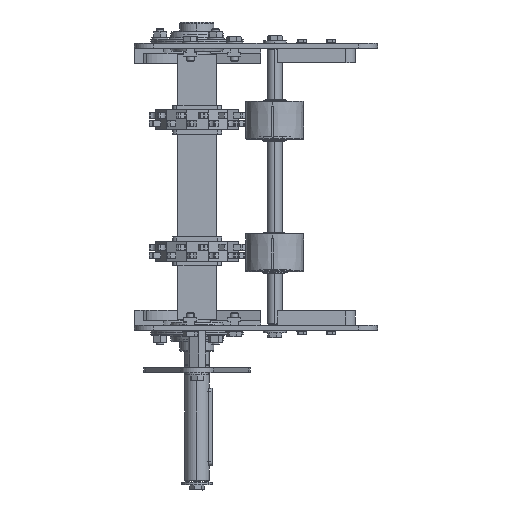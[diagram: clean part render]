
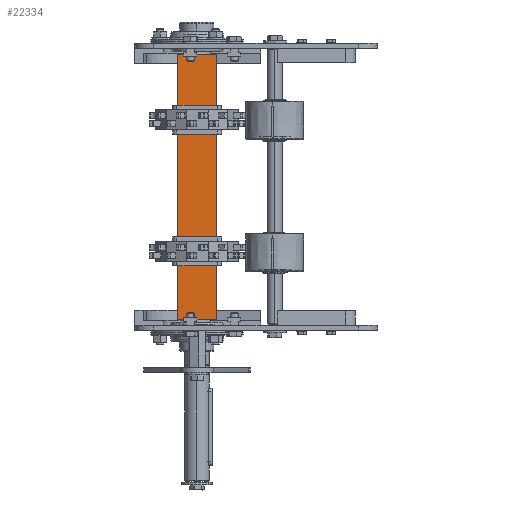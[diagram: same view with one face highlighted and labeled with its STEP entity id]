
A CAD part, left-side view. The second image highlights one B-rep face of the part: STEP entity #22334.
In plain terms, the highlighted planar face has unit normal (-1, 0, 0) as drawn and (1, 0, 0) by its records, which use the part's own axes.
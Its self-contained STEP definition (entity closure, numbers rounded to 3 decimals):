
#371 = CARTESIAN_POINT ( 'NONE',  ( 20., -20., 136.5 ) ) ;
#1951 = VECTOR ( 'NONE', #32514, 1000. ) ;
#2735 = AXIS2_PLACEMENT_3D ( 'NONE', #30798, #13813, #33664 ) ;
#4832 = LINE ( 'NONE', #32830, #19006 ) ;
#4997 = CARTESIAN_POINT ( 'NONE',  ( 20., -20., 136.5 ) ) ;
#5389 = LINE ( 'NONE', #371, #12885 ) ;
#7788 = VERTEX_POINT ( 'NONE', #33047 ) ;
#8144 = PLANE ( 'NONE',  #2735 ) ;
#8829 = ORIENTED_EDGE ( 'NONE', *, *, #13706, .T. ) ;
#9152 = VERTEX_POINT ( 'NONE', #31820 ) ;
#12041 = EDGE_CURVE ( 'NONE', #29884, #18481, #30302, .T. ) ;
#12522 = ORIENTED_EDGE ( 'NONE', *, *, #28702, .F. ) ;
#12885 = VECTOR ( 'NONE', #17337, 1000. ) ;
#12991 = DIRECTION ( 'NONE',  ( 0., 0., -1. ) ) ;
#13706 = EDGE_CURVE ( 'NONE', #7788, #9152, #31979, .T. ) ;
#13813 = DIRECTION ( 'NONE',  ( -1., 0., 0. ) ) ;
#15503 = CARTESIAN_POINT ( 'NONE',  ( 20., 20., 136.5 ) ) ;
#16286 = ORIENTED_EDGE ( 'NONE', *, *, #12041, .F. ) ;
#17337 = DIRECTION ( 'NONE',  ( 0., 0., -1. ) ) ;
#18481 = VERTEX_POINT ( 'NONE', #36484 ) ;
#19006 = VECTOR ( 'NONE', #12991, 1000. ) ;
#22334 = ADVANCED_FACE ( 'NONE', ( #28327 ), #8144, .F. ) ;
#22581 = EDGE_LOOP ( 'NONE', ( #8829, #12522, #16286, #29163 ) ) ;
#25597 = CARTESIAN_POINT ( 'NONE',  ( 20., 20., -136.5 ) ) ;
#28327 = FACE_OUTER_BOUND ( 'NONE', #22581, .T. ) ;
#28702 = EDGE_CURVE ( 'NONE', #18481, #9152, #4832, .T. ) ;
#29163 = ORIENTED_EDGE ( 'NONE', *, *, #33592, .T. ) ;
#29884 = VERTEX_POINT ( 'NONE', #4997 ) ;
#30199 = VECTOR ( 'NONE', #34157, 1000. ) ;
#30302 = LINE ( 'NONE', #15503, #1951 ) ;
#30798 = CARTESIAN_POINT ( 'NONE',  ( 20., 20., 136.5 ) ) ;
#31820 = CARTESIAN_POINT ( 'NONE',  ( 20., 20., -136.5 ) ) ;
#31979 = LINE ( 'NONE', #25597, #30199 ) ;
#32514 = DIRECTION ( 'NONE',  ( 0., 1., 0. ) ) ;
#32830 = CARTESIAN_POINT ( 'NONE',  ( 20., 20., 136.5 ) ) ;
#33047 = CARTESIAN_POINT ( 'NONE',  ( 20., -20., -136.5 ) ) ;
#33592 = EDGE_CURVE ( 'NONE', #29884, #7788, #5389, .T. ) ;
#33664 = DIRECTION ( 'NONE',  ( 0., -1., 0. ) ) ;
#34157 = DIRECTION ( 'NONE',  ( 0., 1., 0. ) ) ;
#36484 = CARTESIAN_POINT ( 'NONE',  ( 20., 20., 136.5 ) ) ;
